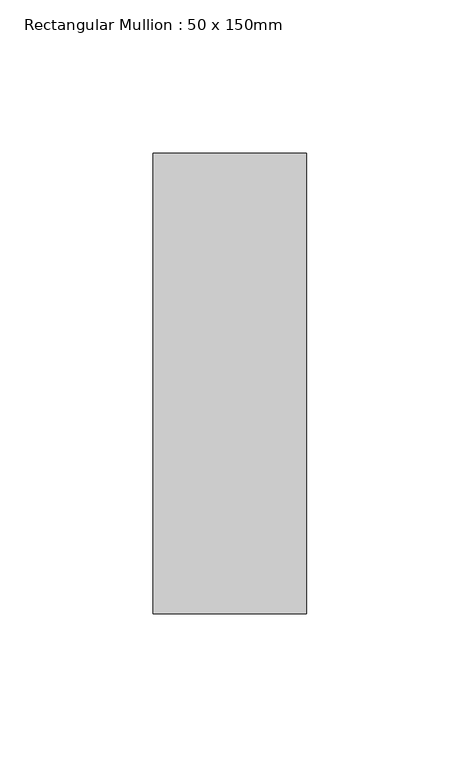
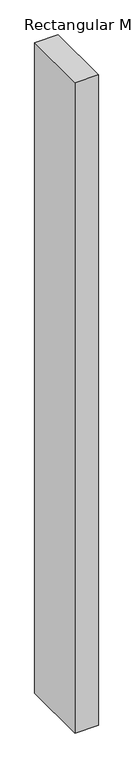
"""IFC4 building model written with IfcOpenShell, lengths in millimetres: member geometry, Rectangular Mullion : 50 x 150mm."""

from ifc_helpers import new_model, si_unit, frame, origin, place, context, project, spatial, polyline, outline, extrude, source, transform, mapped, element, save


def rectangular_mullion_50_x_150mm_a9d16d0a(model_context):
    return source(origin(), model_context, "Body", "SweptSolid", [
        extrude(outline(polyline([(25.0, 75.0), (25.0, -75.0), (-25.0, -75.0), (-25.0, 75.0), (25.0, 75.0)])), frame((0.0, 0.0, -1476.2916639), z_axis=(0.0, 0.0, 1.0), x_axis=(1.0, 0.0, 0.0)), (0.0, 0.0, 1.0), 1476.2916639),
    ])


if __name__ == "__main__":
    model = new_model("IFC4")
    model_context = context("Model", 3, world=origin())
    ifc_project = project(units=[si_unit("LENGTHUNIT", "METRE", prefix="MILLI")], contexts=[model_context])
    site = spatial("IfcSite", under=ifc_project)
    building = spatial("IfcBuilding", under=site)
    placement = place(None, origin())
    rectangular_mullion_50_x_150mm_shape = rectangular_mullion_50_x_150mm_a9d16d0a(model_context)
    element("IfcMember", 1, ObjectType="Rectangular Mullion : 50 x 150mm", at=placement, inside=building, context=model_context, shape_type="MappedRepresentation", body=[
        mapped(rectangular_mullion_50_x_150mm_shape, transform((0.0, 0.0, 0.0), x_axis=(1.0, 0.0, 0.0), y_axis=(0.0, 1.0, 0.0), z_axis=(0.0, 0.0, 1.0))),
    ])
    save(model, "model.ifc")
